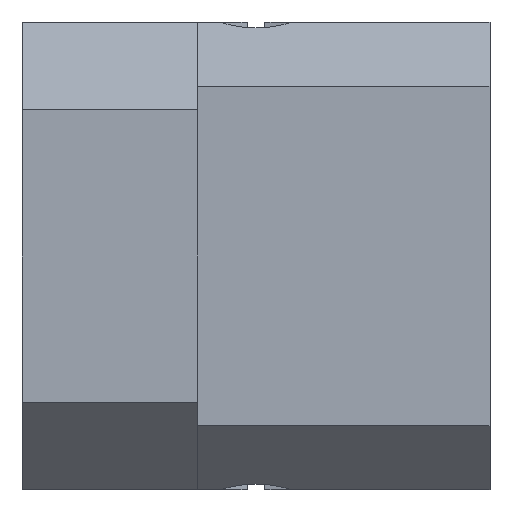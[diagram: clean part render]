
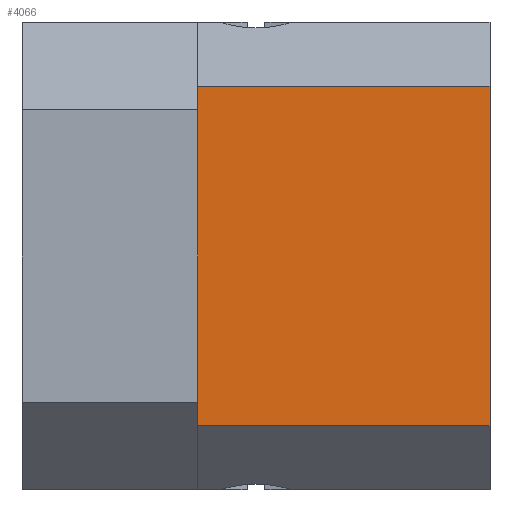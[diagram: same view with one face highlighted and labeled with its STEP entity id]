
A CAD part, left-side view. The second image highlights one B-rep face of the part: STEP entity #4066.
In plain terms, the highlighted planar face has unit normal (-1, 0, 0).
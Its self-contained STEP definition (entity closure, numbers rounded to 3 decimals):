
#62 = VERTEX_POINT ( 'NONE', #3778 ) ;
#93 = LINE ( 'NONE', #11131, #3632 ) ;
#149 = DIRECTION ( 'NONE',  ( 0., 1., 0. ) ) ;
#1111 = LINE ( 'NONE', #8579, #11252 ) ;
#1509 = PLANE ( 'NONE',  #6157 ) ;
#1657 = EDGE_LOOP ( 'NONE', ( #3142, #1952, #10706, #9549 ) ) ;
#1952 = ORIENTED_EDGE ( 'NONE', *, *, #6024, .T. ) ;
#2114 = VERTEX_POINT ( 'NONE', #10449 ) ;
#3101 = VERTEX_POINT ( 'NONE', #4296 ) ;
#3142 = ORIENTED_EDGE ( 'NONE', *, *, #8136, .T. ) ;
#3632 = VECTOR ( 'NONE', #10243, 1000. ) ;
#3778 = CARTESIAN_POINT ( 'NONE',  ( 10.692, 26.699, -5.8 ) ) ;
#4066 = ADVANCED_FACE ( 'NONE', ( #7002 ), #1509, .F. ) ;
#4296 = CARTESIAN_POINT ( 'NONE',  ( 10.692, 16.699, 5.8 ) ) ;
#4360 = CARTESIAN_POINT ( 'NONE',  ( 10.692, 26.699, 0. ) ) ;
#4374 = VERTEX_POINT ( 'NONE', #11610 ) ;
#4487 = CARTESIAN_POINT ( 'NONE',  ( 10.692, 16.699, 5.8 ) ) ;
#4972 = DIRECTION ( 'NONE',  ( 0., 0., -1. ) ) ;
#4983 = VECTOR ( 'NONE', #149, 1000. ) ;
#5735 = VECTOR ( 'NONE', #6038, 1000. ) ;
#6024 = EDGE_CURVE ( 'NONE', #4374, #62, #9770, .T. ) ;
#6038 = DIRECTION ( 'NONE',  ( 0., 0., -1. ) ) ;
#6157 = AXIS2_PLACEMENT_3D ( 'NONE', #4487, #8135, #4972 ) ;
#6614 = CARTESIAN_POINT ( 'NONE',  ( 10.692, 21.699, 5.8 ) ) ;
#6650 = DIRECTION ( 'NONE',  ( 0., 1., 0. ) ) ;
#6743 = LINE ( 'NONE', #6614, #4983 ) ;
#7002 = FACE_OUTER_BOUND ( 'NONE', #1657, .T. ) ;
#8135 = DIRECTION ( 'NONE',  ( 1., 0., 0. ) ) ;
#8136 = EDGE_CURVE ( 'NONE', #3101, #4374, #6743, .T. ) ;
#8579 = CARTESIAN_POINT ( 'NONE',  ( 10.692, 21.699, -5.8 ) ) ;
#9549 = ORIENTED_EDGE ( 'NONE', *, *, #10057, .F. ) ;
#9683 = EDGE_CURVE ( 'NONE', #2114, #62, #1111, .T. ) ;
#9770 = LINE ( 'NONE', #4360, #5735 ) ;
#10057 = EDGE_CURVE ( 'NONE', #3101, #2114, #93, .T. ) ;
#10243 = DIRECTION ( 'NONE',  ( 0., 0., -1. ) ) ;
#10449 = CARTESIAN_POINT ( 'NONE',  ( 10.692, 16.699, -5.8 ) ) ;
#10706 = ORIENTED_EDGE ( 'NONE', *, *, #9683, .F. ) ;
#11131 = CARTESIAN_POINT ( 'NONE',  ( 10.692, 16.699, 0. ) ) ;
#11252 = VECTOR ( 'NONE', #6650, 1000. ) ;
#11610 = CARTESIAN_POINT ( 'NONE',  ( 10.692, 26.699, 5.8 ) ) ;
